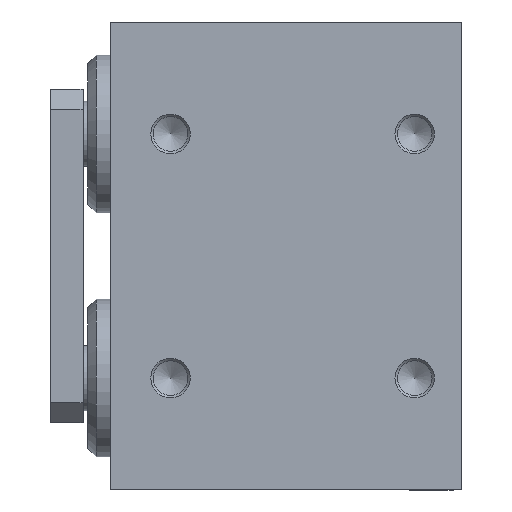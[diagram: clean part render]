
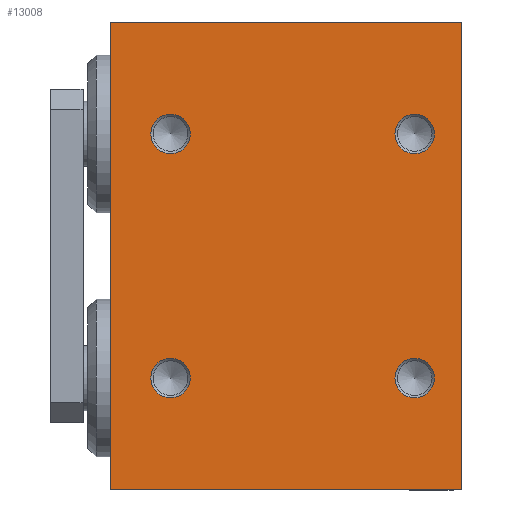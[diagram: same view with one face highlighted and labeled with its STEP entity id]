
A CAD part, front view. The second image highlights one B-rep face of the part: STEP entity #13008.
In plain terms, the highlighted planar face has unit normal (0, -1, 0).
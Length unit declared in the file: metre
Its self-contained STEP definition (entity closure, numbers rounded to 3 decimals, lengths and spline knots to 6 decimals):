
#340 = CARTESIAN_POINT ( 'NONE',  ( 0.0295, 0., -0.03 ) ) ;
#491 = VERTEX_POINT ( 'NONE', #8456 ) ;
#509 = DIRECTION ( 'NONE',  ( 0., 0., 1. ) ) ;
#614 = PLANE ( 'NONE',  #11829 ) ;
#718 = DIRECTION ( 'NONE',  ( 0., 0., -1. ) ) ;
#788 = CARTESIAN_POINT ( 'NONE',  ( 0.0147, 0., -0.0575 ) ) ;
#1107 = DIRECTION ( 'NONE',  ( 0., 1., 0. ) ) ;
#1413 = VERTEX_POINT ( 'NONE', #2574 ) ;
#1435 = VECTOR ( 'NONE', #11835, 1. ) ;
#1545 = DIRECTION ( 'NONE',  ( 0., 0., -1. ) ) ;
#2151 = EDGE_LOOP ( 'NONE', ( #15131 ) ) ;
#2183 = VERTEX_POINT ( 'NONE', #2688 ) ;
#2282 = VERTEX_POINT ( 'NONE', #4057 ) ;
#2382 = AXIS2_PLACEMENT_3D ( 'NONE', #8302, #1107, #9509 ) ;
#2479 = CARTESIAN_POINT ( 'NONE',  ( 0.0895, 0., 0.02515 ) ) ;
#2574 = CARTESIAN_POINT ( 'NONE',  ( 0.0895, 0., -0.03485 ) ) ;
#2688 = CARTESIAN_POINT ( 'NONE',  ( 0.0147, 0., 0.0575 ) ) ;
#2998 = DIRECTION ( 'NONE',  ( -1., 0., 0. ) ) ;
#3163 = CIRCLE ( 'NONE', #5203, 0.00485 ) ;
#3297 = ORIENTED_EDGE ( 'NONE', *, *, #14600, .F. ) ;
#3661 = CARTESIAN_POINT ( 'NONE',  ( 0.0895, 0., -0.03 ) ) ;
#3923 = EDGE_LOOP ( 'NONE', ( #6383 ) ) ;
#4057 = CARTESIAN_POINT ( 'NONE',  ( 0.0147, 0., -0.0575 ) ) ;
#4141 = EDGE_LOOP ( 'NONE', ( #11740 ) ) ;
#4246 = DIRECTION ( 'NONE',  ( 0., -1., 0. ) ) ;
#4866 = DIRECTION ( 'NONE',  ( 0., 0., -1. ) ) ;
#4948 = EDGE_CURVE ( 'NONE', #12126, #6582, #7505, .T. ) ;
#5203 = AXIS2_PLACEMENT_3D ( 'NONE', #3661, #12008, #4866 ) ;
#5296 = CARTESIAN_POINT ( 'NONE',  ( 0.101, 0., -0.0575 ) ) ;
#5832 = ORIENTED_EDGE ( 'NONE', *, *, #7877, .F. ) ;
#5966 = EDGE_LOOP ( 'NONE', ( #13994 ) ) ;
#6004 = CARTESIAN_POINT ( 'NONE',  ( 0.101, 0., 0.0575 ) ) ;
#6383 = ORIENTED_EDGE ( 'NONE', *, *, #15039, .T. ) ;
#6518 = VERTEX_POINT ( 'NONE', #2479 ) ;
#6582 = VERTEX_POINT ( 'NONE', #14904 ) ;
#6665 = ORIENTED_EDGE ( 'NONE', *, *, #4948, .F. ) ;
#6877 = LINE ( 'NONE', #10635, #1435 ) ;
#7113 = CIRCLE ( 'NONE', #2382, 0.00485 ) ;
#7180 = CIRCLE ( 'NONE', #13905, 0.00485 ) ;
#7210 = VECTOR ( 'NONE', #2998, 1. ) ;
#7379 = LINE ( 'NONE', #10175, #7210 ) ;
#7393 = EDGE_CURVE ( 'NONE', #6582, #2282, #7379, .T. ) ;
#7505 = LINE ( 'NONE', #5296, #14567 ) ;
#7811 = CARTESIAN_POINT ( 'NONE',  ( 0.101, 0., -0.0575 ) ) ;
#7877 = EDGE_CURVE ( 'NONE', #2282, #2183, #13565, .T. ) ;
#7928 = DIRECTION ( 'NONE',  ( 0., 1., 0. ) ) ;
#8180 = EDGE_CURVE ( 'NONE', #13616, #13616, #7180, .T. ) ;
#8302 = CARTESIAN_POINT ( 'NONE',  ( 0.0895, 0., 0.03 ) ) ;
#8320 = FACE_BOUND ( 'NONE', #5966, .T. ) ;
#8456 = CARTESIAN_POINT ( 'NONE',  ( 0.0295, 0., 0.02515 ) ) ;
#8732 = EDGE_LOOP ( 'NONE', ( #10045, #6665, #3297, #5832 ) ) ;
#8743 = DIRECTION ( 'NONE',  ( 0., 1., 0. ) ) ;
#8873 = FACE_BOUND ( 'NONE', #2151, .T. ) ;
#9255 = FACE_BOUND ( 'NONE', #4141, .T. ) ;
#9442 = FACE_OUTER_BOUND ( 'NONE', #8732, .T. ) ;
#9458 = FACE_BOUND ( 'NONE', #3923, .T. ) ;
#9509 = DIRECTION ( 'NONE',  ( 0., 0., -1. ) ) ;
#10045 = ORIENTED_EDGE ( 'NONE', *, *, #7393, .F. ) ;
#10051 = EDGE_CURVE ( 'NONE', #491, #491, #14425, .T. ) ;
#10175 = CARTESIAN_POINT ( 'NONE',  ( 0.018, 0., -0.0575 ) ) ;
#10594 = EDGE_CURVE ( 'NONE', #6518, #6518, #7113, .T. ) ;
#10635 = CARTESIAN_POINT ( 'NONE',  ( 0.018, 0., 0.0575 ) ) ;
#10793 = CARTESIAN_POINT ( 'NONE',  ( 0.0295, 0., -0.03485 ) ) ;
#10986 = AXIS2_PLACEMENT_3D ( 'NONE', #15050, #7928, #718 ) ;
#11740 = ORIENTED_EDGE ( 'NONE', *, *, #10594, .T. ) ;
#11829 = AXIS2_PLACEMENT_3D ( 'NONE', #7811, #4246, #12602 ) ;
#11835 = DIRECTION ( 'NONE',  ( 1., 0., 0. ) ) ;
#12008 = DIRECTION ( 'NONE',  ( 0., 1., 0. ) ) ;
#12126 = VERTEX_POINT ( 'NONE', #6004 ) ;
#12450 = DIRECTION ( 'NONE',  ( 0., 0., -1. ) ) ;
#12602 = DIRECTION ( 'NONE',  ( 0., 0., -1. ) ) ;
#13008 = ADVANCED_FACE ( 'NONE', ( #9255, #9458, #8873, #8320, #9442 ), #614, .T. ) ;
#13565 = LINE ( 'NONE', #788, #13942 ) ;
#13616 = VERTEX_POINT ( 'NONE', #10793 ) ;
#13905 = AXIS2_PLACEMENT_3D ( 'NONE', #340, #8743, #1545 ) ;
#13942 = VECTOR ( 'NONE', #509, 1. ) ;
#13994 = ORIENTED_EDGE ( 'NONE', *, *, #10051, .T. ) ;
#14425 = CIRCLE ( 'NONE', #10986, 0.00485 ) ;
#14567 = VECTOR ( 'NONE', #12450, 1. ) ;
#14600 = EDGE_CURVE ( 'NONE', #2183, #12126, #6877, .T. ) ;
#14904 = CARTESIAN_POINT ( 'NONE',  ( 0.101, 0., -0.0575 ) ) ;
#15039 = EDGE_CURVE ( 'NONE', #1413, #1413, #3163, .T. ) ;
#15050 = CARTESIAN_POINT ( 'NONE',  ( 0.0295, 0., 0.03 ) ) ;
#15131 = ORIENTED_EDGE ( 'NONE', *, *, #8180, .T. ) ;
